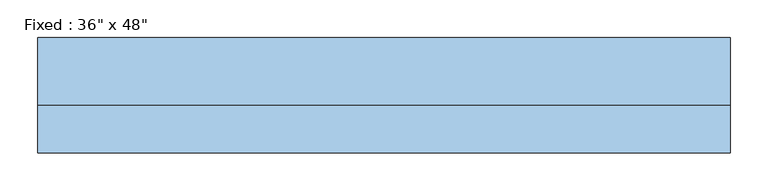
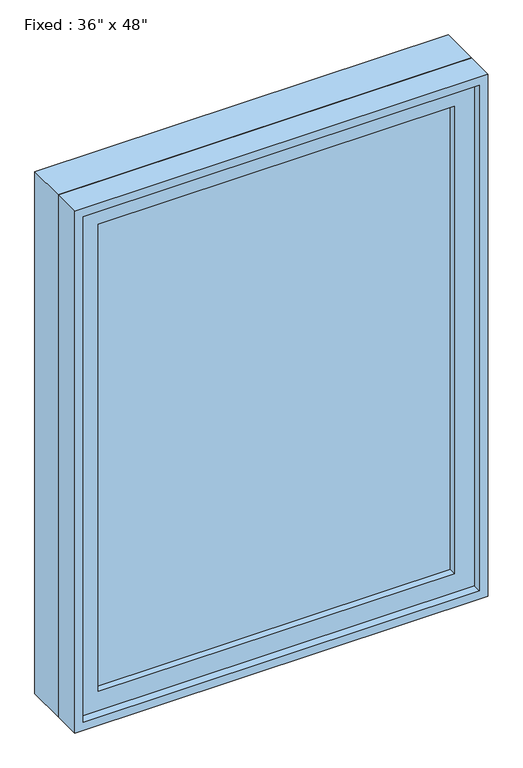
"""IFC4 building model written with IfcOpenShell, lengths in millimetres: window geometry."""

from ifc_helpers import new_model, si_unit, frame, origin, place, context, project, spatial, polyline, outline, extrude, source, transform, mapped, element, save


def window_72989158(model_context):
    return source(origin(), model_context, "Body", "SweptSolid", [
        extrude(outline(polyline([(355.6, -28.575), (355.6, -41.275), (-431.8, -41.275), (-431.8, -28.575), (355.6, -28.575)])), frame((0.0, 0.0, 977.9), z_axis=(0.0, 0.0, 1.0), x_axis=(1.0, 0.0, 0.0)), (0.0, 0.0, 1.0), 1092.2),
        extrude(outline(polyline([(2114.55, -476.25), (933.45, -476.25), (933.45, 400.05), (2114.55, 400.05), (2114.55, -476.25)]), holes=[polyline([(2070.1, -431.8), (2070.1, 355.6), (977.9, 355.6), (977.9, -431.8), (2070.1, -431.8)])]), frame((0.0, -57.15, 0.0), z_axis=(0.0, 1.0, 0.0), x_axis=(0.0, 0.0, 1.0)), (0.0, 0.0, 1.0), 44.45),
        extrude(outline(polyline([(2133.6, -495.3), (914.4, -495.3), (914.4, 419.1), (2133.6, 419.1), (2133.6, -495.3)]), holes=[polyline([(2101.85, -463.55), (2101.85, 387.35), (946.15, 387.35), (946.15, -463.55), (2101.85, -463.55)])]), frame((0.0, -12.7, 0.0), z_axis=(0.0, 1.0, 0.0), x_axis=(0.0, 0.0, 1.0)), (0.0, 0.0, 1.0), 88.9),
        extrude(outline(polyline([(2133.6, 419.1), (2133.6, -495.3), (914.4, -495.3), (914.4, 419.1), (2133.6, 419.1)]), holes=[polyline([(2114.55, 400.05), (933.45, 400.05), (933.45, -476.25), (2114.55, -476.25), (2114.55, 400.05)])]), frame((0.0, -76.2, 0.0), z_axis=(0.0, 1.0, 0.0), x_axis=(0.0, 0.0, 1.0)), (0.0, 0.0, 1.0), 63.5),
    ])


if __name__ == "__main__":
    model = new_model("IFC4")
    model_context = context("Model", 3, world=origin())
    ifc_project = project(units=[si_unit("LENGTHUNIT", "METRE", prefix="MILLI")], contexts=[model_context])
    site = spatial("IfcSite", under=ifc_project)
    building = spatial("IfcBuilding", under=site)
    placement = place(None, origin())
    window_shape = window_72989158(model_context)
    element("IfcWindow", 1, ObjectType="Fixed : 36\" x 48\"", at=placement, inside=building, context=model_context, shape_type="MappedRepresentation", body=[
        mapped(window_shape, transform((0.0, 0.0, 0.0), x_axis=(1.0, 0.0, 0.0), y_axis=(0.0, 1.0, 0.0), z_axis=(0.0, 0.0, 1.0))),
    ])
    save(model, "model.ifc")
